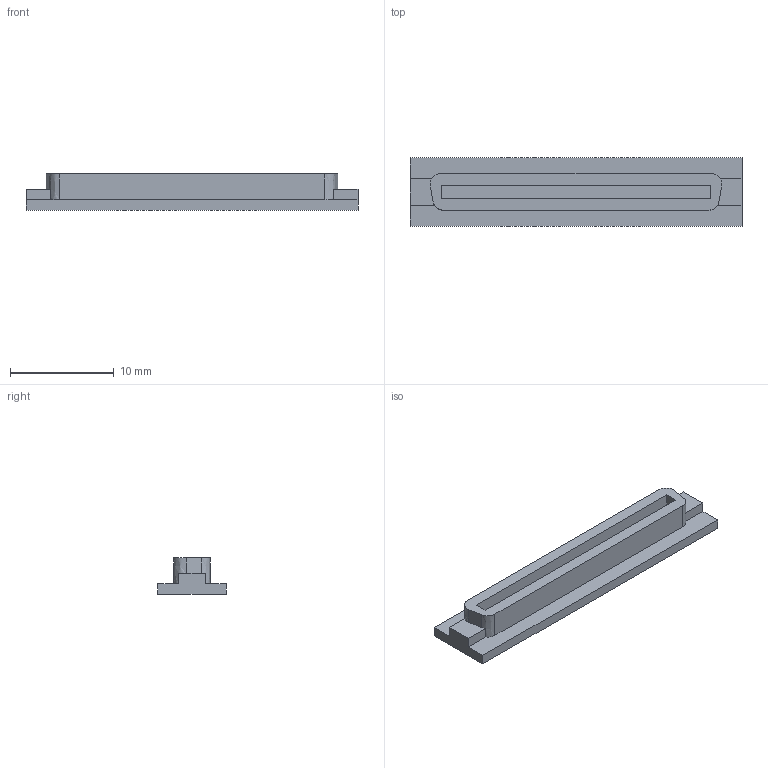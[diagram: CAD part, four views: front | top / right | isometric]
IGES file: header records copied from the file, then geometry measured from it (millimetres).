
Start section:  PTC IGES file: j4gfrj-cn7.igs
Global section: file name: j4gfrj-cn7.igs; native system: Creo Parametric by Parametric Technology Corporation; preprocessor: 2014310; author: ZZ86203; organization: Unknown; date: 20151022.125234; units: millimetre
Bounding box: 32 x 6.6 x 3.5 mm (x, y, z)
Volume: 385.7 mm3; surface area: 797 mm2
Topology: 1 solids, 1 shells, 27 faces, 72 edges, 48 vertices
Faces by surface type: bspline 27
